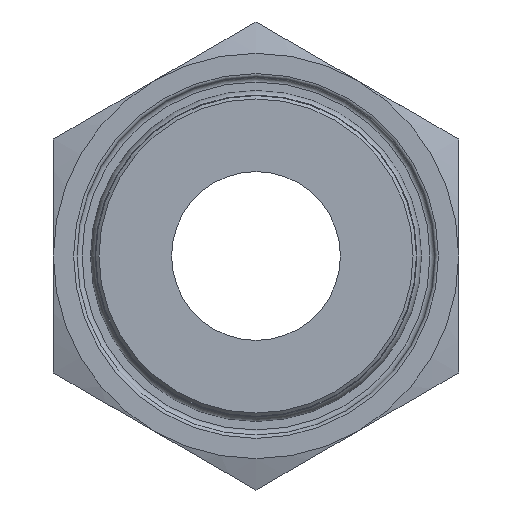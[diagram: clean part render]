
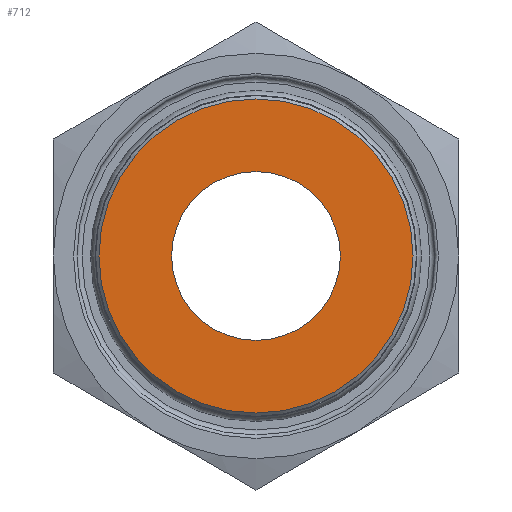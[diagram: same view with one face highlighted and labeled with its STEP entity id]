
A CAD part, front view. The second image highlights one B-rep face of the part: STEP entity #712.
In plain terms, the highlighted planar face has unit normal (0, -1, 0).
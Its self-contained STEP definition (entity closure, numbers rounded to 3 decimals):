
#73=FACE_BOUND('',#180,.T.);
#86=PLANE('',#868);
#124=FACE_OUTER_BOUND('',#179,.T.);
#179=EDGE_LOOP('',(#552));
#180=EDGE_LOOP('',(#553));
#278=CIRCLE('',#845,5.);
#293=CIRCLE('',#867,9.3);
#332=VERTEX_POINT('',#1227);
#346=VERTEX_POINT('',#1267);
#401=EDGE_CURVE('',#332,#332,#278,.T.);
#421=EDGE_CURVE('',#346,#346,#293,.T.);
#552=ORIENTED_EDGE('',*,*,#421,.F.);
#553=ORIENTED_EDGE('',*,*,#401,.T.);
#712=ADVANCED_FACE('',(#124,#73),#86,.T.);
#845=AXIS2_PLACEMENT_3D('',#1228,#991,#992);
#867=AXIS2_PLACEMENT_3D('',#1269,#1040,#1041);
#868=AXIS2_PLACEMENT_3D('',#1270,#1042,#1043);
#991=DIRECTION('center_axis',(0.,1.,0.));
#992=DIRECTION('ref_axis',(1.,0.,0.));
#1040=DIRECTION('center_axis',(0.,1.,0.));
#1041=DIRECTION('ref_axis',(1.,0.,0.));
#1042=DIRECTION('center_axis',(0.,-1.,0.));
#1043=DIRECTION('ref_axis',(0.,0.,-1.));
#1227=CARTESIAN_POINT('',(-5.,-10.,0.));
#1228=CARTESIAN_POINT('Origin',(0.,-10.,0.));
#1267=CARTESIAN_POINT('',(-9.3,-10.,0.));
#1269=CARTESIAN_POINT('Origin',(0.,-10.,0.));
#1270=CARTESIAN_POINT('Origin',(-9.5,-10.,0.));
